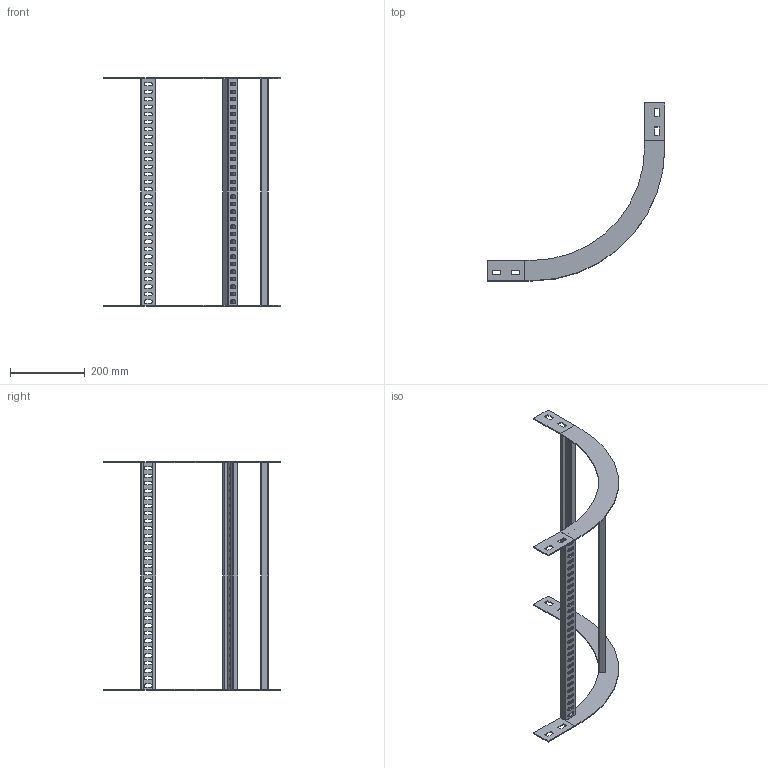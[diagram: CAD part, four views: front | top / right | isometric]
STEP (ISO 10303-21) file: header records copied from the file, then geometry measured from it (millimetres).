
FILE_DESCRIPTION(/* description */ ('','CAx-IF Rec.Pracs.---Representation and Presentation of Product Manufacturing Information (PMI)---4.0---2014-10-13'),/* implementation_level */ '2;1');
FILE_NAME(/* name */ 'Eurostrut_EOR60-600-300_Outisde Riser 90 for Cable Ladder ECL.step',/* time_stamp */ '2026-09-07T11:23:27+02:00',/* author */ (''),/* organization */ (''),/* preprocessor_version */ 'ST-DEVELOPER v20.1',/* originating_system */ 'Autodesk Revit 2027 27.2.0.39',/* authorisation */ '');
FILE_SCHEMA (('AP242_MANAGED_MODEL_BASED_3D_ENGINEERING_MIM_LF { 1 0 10303 442 2 1 4 }'));
Length unit declared in the file: millimetre
Products named in the file (4): TopLevelAssembly; Eurostrut_Cable Ladder_Accessory End_54-94-142; Eurostrut_Cable Ladder_Rung_V2 Vertical_Array EOR_Slotted; Sweep
Assembly tree (6 placements, depth 2):
  TopLevelAssembly
    Eurostrut_Cable Ladder_Accessory End_54-94-142  x4
    Eurostrut_Cable Ladder_Rung_V2 Vertical_Array EOR_Slotted
    Sweep
Bounding box: 474 x 474 x 611 mm (x, y, z)
Volume: 452262.5 mm3; surface area: 470630.7 mm2
Topology: 9 solids, 9 shells, 490 faces, 1416 edges, 944 vertices
Faces by surface type: plane 294, bspline 180, cylinder 16
Entity records: 20418 total; most frequent: CARTESIAN_POINT 8218, ORIENTED_EDGE 2616, DIRECTION 2256, EDGE_CURVE 1308, LINE 916, VECTOR 916, VERTEX_POINT 872, AXIS2_PLACEMENT_3D 670
